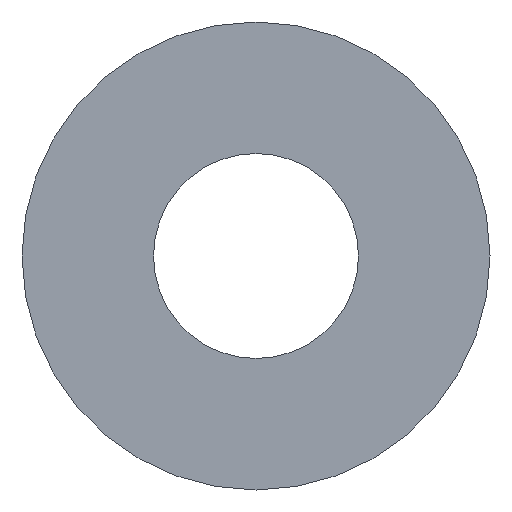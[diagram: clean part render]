
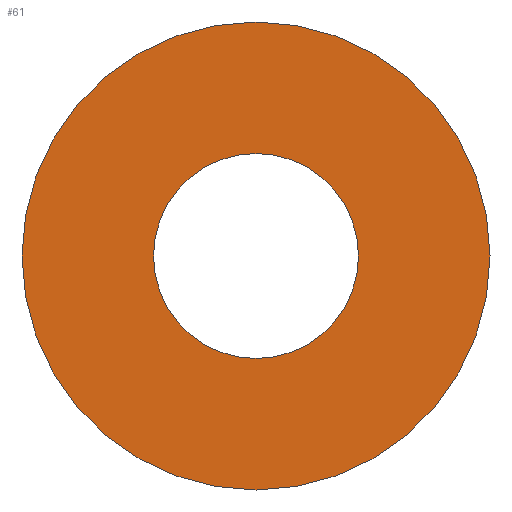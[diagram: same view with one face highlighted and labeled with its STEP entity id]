
A CAD part, front view. The second image highlights one B-rep face of the part: STEP entity #61.
In plain terms, the highlighted planar face has unit normal (0, -1, 0).
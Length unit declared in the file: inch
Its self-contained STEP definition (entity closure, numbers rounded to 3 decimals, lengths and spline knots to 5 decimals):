
#6 = CIRCLE ( 'NONE', #21, 0.25 ) ;
#9 = VERTEX_POINT ( 'NONE', #217 ) ;
#11 = AXIS2_PLACEMENT_3D ( 'NONE', #205, #169, #148 ) ;
#21 = AXIS2_PLACEMENT_3D ( 'NONE', #27, #172, #204 ) ;
#25 = EDGE_CURVE ( 'NONE', #109, #78, #89, .T. ) ;
#27 = CARTESIAN_POINT ( 'NONE',  ( 0., -0.023, 0. ) ) ;
#33 = DIRECTION ( 'NONE',  ( 0., 1., 0. ) ) ;
#43 = DIRECTION ( 'NONE',  ( 0., 0., 1. ) ) ;
#46 = AXIS2_PLACEMENT_3D ( 'NONE', #223, #33, #103 ) ;
#51 = CARTESIAN_POINT ( 'NONE',  ( 0., -0.023, 0.1095 ) ) ;
#56 = ORIENTED_EDGE ( 'NONE', *, *, #131, .F. ) ;
#61 = ADVANCED_FACE ( 'NONE', ( #102, #130 ), #114, .F. ) ;
#69 = DIRECTION ( 'NONE',  ( 0., 0., 1. ) ) ;
#77 = CARTESIAN_POINT ( 'NONE',  ( 0., -0.023, 0. ) ) ;
#78 = VERTEX_POINT ( 'NONE', #121 ) ;
#80 = DIRECTION ( 'NONE',  ( 0., 1., 0. ) ) ;
#82 = EDGE_LOOP ( 'NONE', ( #212, #83 ) ) ;
#83 = ORIENTED_EDGE ( 'NONE', *, *, #25, .T. ) ;
#84 = CARTESIAN_POINT ( 'NONE',  ( 0., -0.023, 0.25 ) ) ;
#89 = CIRCLE ( 'NONE', #187, 0.1095 ) ;
#90 = CIRCLE ( 'NONE', #46, 0.1095 ) ;
#98 = ORIENTED_EDGE ( 'NONE', *, *, #104, .F. ) ;
#102 = FACE_BOUND ( 'NONE', #82, .T. ) ;
#103 = DIRECTION ( 'NONE',  ( 0., 0., 1. ) ) ;
#104 = EDGE_CURVE ( 'NONE', #9, #178, #112, .T. ) ;
#109 = VERTEX_POINT ( 'NONE', #51 ) ;
#112 = CIRCLE ( 'NONE', #11, 0.25 ) ;
#114 = PLANE ( 'NONE',  #124 ) ;
#121 = CARTESIAN_POINT ( 'NONE',  ( 0., -0.023, -0.1095 ) ) ;
#123 = EDGE_CURVE ( 'NONE', #78, #109, #90, .T. ) ;
#124 = AXIS2_PLACEMENT_3D ( 'NONE', #193, #154, #69 ) ;
#130 = FACE_OUTER_BOUND ( 'NONE', #185, .T. ) ;
#131 = EDGE_CURVE ( 'NONE', #178, #9, #6, .T. ) ;
#148 = DIRECTION ( 'NONE',  ( 0., 0., 1. ) ) ;
#154 = DIRECTION ( 'NONE',  ( 0., 1., 0. ) ) ;
#169 = DIRECTION ( 'NONE',  ( 0., 1., 0. ) ) ;
#172 = DIRECTION ( 'NONE',  ( 0., 1., 0. ) ) ;
#178 = VERTEX_POINT ( 'NONE', #84 ) ;
#185 = EDGE_LOOP ( 'NONE', ( #98, #56 ) ) ;
#187 = AXIS2_PLACEMENT_3D ( 'NONE', #77, #80, #43 ) ;
#193 = CARTESIAN_POINT ( 'NONE',  ( 0., -0.023, 0. ) ) ;
#204 = DIRECTION ( 'NONE',  ( 0., 0., 1. ) ) ;
#205 = CARTESIAN_POINT ( 'NONE',  ( 0., -0.023, 0. ) ) ;
#212 = ORIENTED_EDGE ( 'NONE', *, *, #123, .T. ) ;
#217 = CARTESIAN_POINT ( 'NONE',  ( 0., -0.023, -0.25 ) ) ;
#223 = CARTESIAN_POINT ( 'NONE',  ( 0., -0.023, 0. ) ) ;
